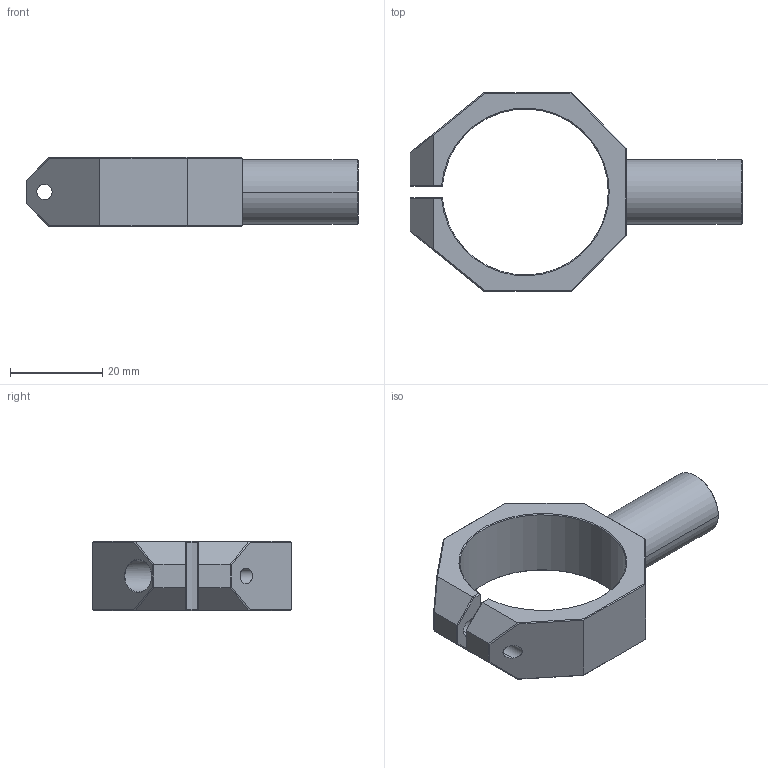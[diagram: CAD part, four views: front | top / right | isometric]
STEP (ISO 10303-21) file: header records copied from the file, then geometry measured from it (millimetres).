
FILE_DESCRIPTION (( 'STEP AP214' ), '1' );
FILE_NAME ('SCE-NR10.STEP', '2023-06-05T01:54:54', ( 'Windows User' ), ( 'P R C' ), 'SwSTEP 2.0', 'SolidWorks 2019', '' );
FILE_SCHEMA (( 'AUTOMOTIVE_DESIGN' ));
Length unit declared in the file: millimetre
Products named in the file (1): SCE-NR10
Bounding box: 72 x 43 x 15 mm (x, y, z)
Volume: 11188.9 mm3; surface area: 7024 mm2
Topology: 1 solids, 1 shells, 70 faces, 167 edges, 102 vertices
Faces by surface type: plane 50, cylinder 11, cone 7, bspline 2
Entity records: 2887 total; most frequent: CARTESIAN_POINT 1226, ORIENTED_EDGE 334, DIRECTION 317, EDGE_CURVE 167, VECTOR 127, LINE 127, VERTEX_POINT 102, AXIS2_PLACEMENT_3D 95
